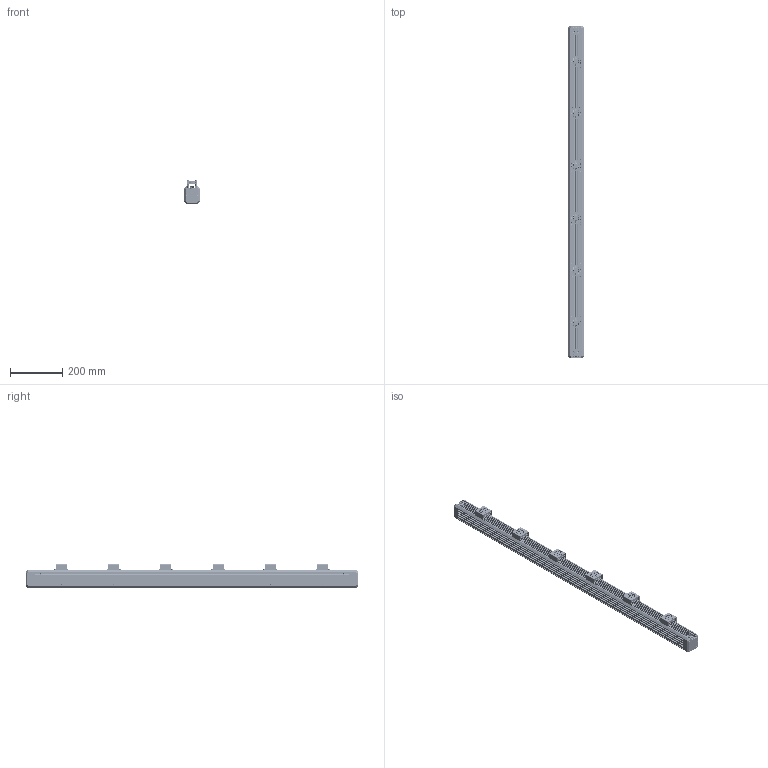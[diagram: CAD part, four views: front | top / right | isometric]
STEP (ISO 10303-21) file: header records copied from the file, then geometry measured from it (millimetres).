
FILE_DESCRIPTION((''),'2;1');
FILE_NAME('MV-LTDS-H-1200-W_ASM_1_ASM','2025-06-03T15:24:12',('huguozhe'),(''),'CREO PARAMETRIC BY PTC INC, 2020044','CREO PARAMETRIC BY PTC INC, 2020044','');
FILE_SCHEMA(('AUTOMOTIVE_DESIGN { 1 0 10303 214 1 1 1 1 }'));
Products named in the file (25): DE-15-000657_1; DE-15-000656_ASM_1_ASM; DE-15-000659_1; DE-15-000658_ASM_1_ASM; SC-HSCM3X6B-GB70_1_1; DE-12-001687_1; SC-AM3X10NL-BNI-SCM435-GB70_1_1; SC-HSCM3X8-SUS316_1; DE-11-019911_1; 8002-CLS-M3-1_1; DE-11-019911_ASM_1_ASM; 101800527_01_1; 101800527_02_1; 101800527_MGA4012HB-O10_ASM_1_ASM; SC-ASFM3X14NL-BNI-SUS316L_1; NUT-M4-GB6170_1; DE-14-015560_1_1_1; DE-14-016113_ASM_1_1_ASM_1_ASM; DE-14-016113_ASM_ASM_1_ASM; 19M-H_2_1_1_1; 19M-8H-8P_1_1; 19M-8H_ASM_1_ASM_1_ASM; 19M-8H_ASM_ASM_1_ASM; DE-14-016113-19M-8H_ASM; MV-LTDS-H-1200-W_ASM_1_ASM
Assembly tree (118 placements, depth 5):
  MV-LTDS-H-1200-W_ASM_1_ASM
    DE-15-000656_ASM_1_ASM
      DE-15-000657_1
    DE-15-000658_ASM_1_ASM  x2
      DE-15-000659_1
    SC-HSCM3X6B-GB70_1_1  x12
    DE-12-001687_1
    SC-AM3X10NL-BNI-SCM435-GB70_1_1  x32
    SC-HSCM3X8-SUS316_1  x8
    DE-11-019911_ASM_1_ASM  x6
      DE-11-019911_1
      8002-CLS-M3-1_1
    101800527_MGA4012HB-O10_ASM_1_ASM  x6
      101800527_01_1
      101800527_02_1
    SC-ASFM3X14NL-BNI-SUS316L_1  x24
    NUT-M4-GB6170_1  x8
    DE-14-016113-19M-8H_ASM  x2
      DE-14-016113_ASM_ASM_1_ASM
        DE-14-016113_ASM_1_1_ASM_1_ASM
          DE-14-015560_1_1_1
      19M-8H_ASM_ASM_1_ASM
        19M-8H_ASM_1_ASM_1_ASM
          19M-H_2_1_1_1
          19M-8H-8P_1_1
Bounding box: 58 x 1270 x 90.6 mm (x, y, z)
Volume: 3893973.6 mm3; surface area: 1072008 mm2
Topology: 136 solids, 384 shells, 7462 faces, 19936 edges, 12864 vertices
Faces by surface type: plane 3364, cylinder 2642, cone 984, torus 372, bspline 68, sphere 32
Entity records: 85437 total; most frequent: CARTESIAN_POINT 26634, DIRECTION 11459, ORIENTED_EDGE 9920, EDGE_CURVE 5162, AXIS2_PLACEMENT_3D 4479, VERTEX_POINT 3435, VECTOR 2501, LINE 2501
